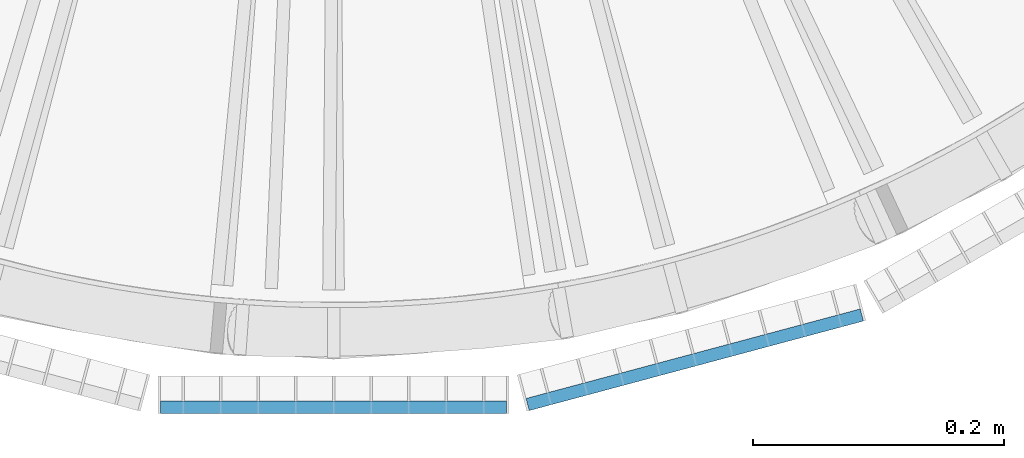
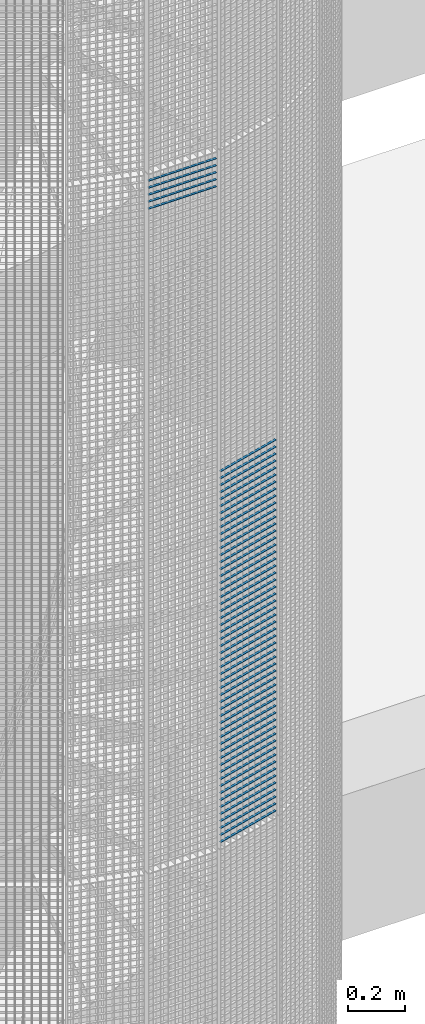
# One storey, part 149 of 1183: 59 beams, 2 elements without a shape of their own.
"""IFC2X3 building model written with IfcOpenShell, lengths in millimetres."""

from ifc_helpers import new_model, si_unit, frame, origin_with_axes, origin_2d_with_axis, place, context, subcontext, project, spatial, rectangle, extrude, material, type_object, element, aggregate, save


model = new_model("IFC2X3")

# Units and contexts
model_context = context("Model", 3, precision=1e-05, world=origin_with_axes())
body_context = subcontext(model_context, "Body", "Model", "MODEL_VIEW")
ifc_project = project(units=[si_unit("LENGTHUNIT", "METRE", prefix="MILLI"), si_unit("AREAUNIT", "SQUARE_METRE"), si_unit("VOLUMEUNIT", "CUBIC_METRE"), si_unit("MASSUNIT", "GRAM", prefix="KILO"), si_unit("TIMEUNIT", "SECOND"), si_unit("PLANEANGLEUNIT", "RADIAN"), si_unit("SOLIDANGLEUNIT", "STERADIAN"), si_unit("THERMODYNAMICTEMPERATUREUNIT", "DEGREE_CELSIUS"), si_unit("LUMINOUSINTENSITYUNIT", "LUMEN")], contexts=[model_context])

# Site, building, storey
site_placement = place(None, origin_with_axes())
site = spatial("IfcSite", under=ifc_project, at=site_placement, Name="Undefined", CompositionType="ELEMENT")
building_placement = place(site_placement, origin_with_axes())
building = spatial("IfcBuilding", under=site, at=building_placement, Name="Undefined", CompositionType="ELEMENT")
storey_placement = place(building_placement, origin_with_axes())
storey = spatial("IfcBuildingStorey", under=building, at=storey_placement, Name="Undefined", CompositionType="ELEMENT", Elevation=0.0)

# Assembly, beams
assembly_1_placement = place(storey_placement, origin_with_axes())
assembly_1 = element("IfcElementAssembly", 1, at=assembly_1_placement, inside=storey, Name="BORDURE", AssemblyPlace="NOTDEFINED", PredefinedType="NOTDEFINED")
ifc_material = material(Name="STEEL/S235JR")
beam_type = type_object("IfcBeamType", Name="PL2*10", PredefinedType="NOTDEFINED")
beam_1_placement = place(assembly_1_placement, frame((154.895926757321, -1111.25508286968, 10620.0), z_axis=(0.258819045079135, -0.965925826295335, 0.0), x_axis=(0.965925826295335, 0.258819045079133, 0.0)))
beam_1 = element("IfcBeam", 2, at=beam_1_placement, type_object=beam_type, material=ifc_material, Name="ENTRETOISE", context=body_context, shape_type="SweptSolid", body=[
    extrude(rectangle(XDim=2.0, YDim=10.0, at=origin_2d_with_axis()), frame((275.999999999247, 9.09494701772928e-13, 1.53210777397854e-14), z_axis=(-1.0, 0.0, 0.0), x_axis=(0.0, -1.0, 0.0)), (0.0, 0.0, 1.0), 276.0),
])
beam_2_placement = place(assembly_1_placement, frame((154.895926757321, -1111.25508286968, 10590.0), z_axis=(0.258819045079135, -0.965925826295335, 0.0), x_axis=(0.965925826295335, 0.258819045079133, 0.0)))
beam_2 = element("IfcBeam", 3, at=beam_2_placement, type_object=beam_type, material=ifc_material, Name="ENTRETOISE", context=body_context, shape_type="SweptSolid", body=[
    extrude(rectangle(XDim=2.0, YDim=10.0, at=origin_2d_with_axis()), frame((275.999999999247, 9.09494701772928e-13, 1.53210777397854e-14), z_axis=(-1.0, 0.0, 0.0), x_axis=(0.0, -1.0, 0.0)), (0.0, 0.0, 1.0), 276.0),
])
beam_3_placement = place(assembly_1_placement, frame((154.895926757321, -1111.25508286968, 10560.0), z_axis=(0.258819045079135, -0.965925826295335, 0.0), x_axis=(0.965925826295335, 0.258819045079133, 0.0)))
beam_3 = element("IfcBeam", 4, at=beam_3_placement, type_object=beam_type, material=ifc_material, Name="ENTRETOISE", context=body_context, shape_type="SweptSolid", body=[
    extrude(rectangle(XDim=2.0, YDim=10.0, at=origin_2d_with_axis()), frame((275.999999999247, 9.09494701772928e-13, 1.53210777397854e-14), z_axis=(-1.0, 0.0, 0.0), x_axis=(0.0, -1.0, 0.0)), (0.0, 0.0, 1.0), 276.0),
])
beam_4_placement = place(assembly_1_placement, frame((154.895926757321, -1111.25508286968, 10530.0), z_axis=(0.258819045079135, -0.965925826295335, 0.0), x_axis=(0.965925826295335, 0.258819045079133, 0.0)))
beam_4 = element("IfcBeam", 5, at=beam_4_placement, type_object=beam_type, material=ifc_material, Name="ENTRETOISE", context=body_context, shape_type="SweptSolid", body=[
    extrude(rectangle(XDim=2.0, YDim=10.0, at=origin_2d_with_axis()), frame((275.999999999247, 9.09494701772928e-13, 1.53210777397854e-14), z_axis=(-1.0, 0.0, 0.0), x_axis=(0.0, -1.0, 0.0)), (0.0, 0.0, 1.0), 276.0),
])
beam_5_placement = place(assembly_1_placement, frame((154.895926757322, -1111.25508286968, 10500.0), z_axis=(0.258819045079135, -0.965925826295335, 0.0), x_axis=(0.965925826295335, 0.258819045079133, 0.0)))
beam_5 = element("IfcBeam", 6, at=beam_5_placement, type_object=beam_type, material=ifc_material, Name="ENTRETOISE", context=body_context, shape_type="SweptSolid", body=[
    extrude(rectangle(XDim=2.0, YDim=10.0, at=origin_2d_with_axis()), frame((275.999999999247, 9.09494701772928e-13, 1.53210777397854e-14), z_axis=(-1.0, 0.0, 0.0), x_axis=(0.0, -1.0, 0.0)), (0.0, 0.0, 1.0), 276.0),
])
beam_6_placement = place(assembly_1_placement, frame((154.895926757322, -1111.25508286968, 10470.0), z_axis=(0.258819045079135, -0.965925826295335, 0.0), x_axis=(0.965925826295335, 0.258819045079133, 0.0)))
beam_6 = element("IfcBeam", 7, at=beam_6_placement, type_object=beam_type, material=ifc_material, Name="ENTRETOISE", context=body_context, shape_type="SweptSolid", body=[
    extrude(rectangle(XDim=2.0, YDim=10.0, at=origin_2d_with_axis()), frame((275.999999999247, 9.09494701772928e-13, 1.53210777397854e-14), z_axis=(-1.0, 0.0, 0.0), x_axis=(0.0, -1.0, 0.0)), (0.0, 0.0, 1.0), 276.0),
])
beam_7_placement = place(assembly_1_placement, frame((154.895926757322, -1111.25508286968, 10440.0), z_axis=(0.258819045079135, -0.965925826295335, 0.0), x_axis=(0.965925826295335, 0.258819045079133, 0.0)))
beam_7 = element("IfcBeam", 8, at=beam_7_placement, type_object=beam_type, material=ifc_material, Name="ENTRETOISE", context=body_context, shape_type="SweptSolid", body=[
    extrude(rectangle(XDim=2.0, YDim=10.0, at=origin_2d_with_axis()), frame((275.999999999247, 9.09494701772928e-13, 1.53210777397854e-14), z_axis=(-1.0, 0.0, 0.0), x_axis=(0.0, -1.0, 0.0)), (0.0, 0.0, 1.0), 276.0),
])
beam_8_placement = place(assembly_1_placement, frame((154.895926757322, -1111.25508286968, 10410.0), z_axis=(0.258819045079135, -0.965925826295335, 0.0), x_axis=(0.965925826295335, 0.258819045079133, 0.0)))
beam_8 = element("IfcBeam", 9, at=beam_8_placement, type_object=beam_type, material=ifc_material, Name="ENTRETOISE", context=body_context, shape_type="SweptSolid", body=[
    extrude(rectangle(XDim=2.0, YDim=10.0, at=origin_2d_with_axis()), frame((275.999999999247, 9.09494701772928e-13, 1.53210777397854e-14), z_axis=(-1.0, 0.0, 0.0), x_axis=(0.0, -1.0, 0.0)), (0.0, 0.0, 1.0), 276.0),
])
beam_9_placement = place(assembly_1_placement, frame((154.895926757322, -1111.25508286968, 10380.0), z_axis=(0.258819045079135, -0.965925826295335, 0.0), x_axis=(0.965925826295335, 0.258819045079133, 0.0)))
beam_9 = element("IfcBeam", 10, at=beam_9_placement, type_object=beam_type, material=ifc_material, Name="ENTRETOISE", context=body_context, shape_type="SweptSolid", body=[
    extrude(rectangle(XDim=2.0, YDim=10.0, at=origin_2d_with_axis()), frame((275.999999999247, 9.09494701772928e-13, 1.53210777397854e-14), z_axis=(-1.0, 0.0, 0.0), x_axis=(0.0, -1.0, 0.0)), (0.0, 0.0, 1.0), 276.0),
])
beam_10_placement = place(assembly_1_placement, frame((154.895926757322, -1111.25508286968, 10350.0), z_axis=(0.258819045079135, -0.965925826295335, 0.0), x_axis=(0.965925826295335, 0.258819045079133, 0.0)))
beam_10 = element("IfcBeam", 11, at=beam_10_placement, type_object=beam_type, material=ifc_material, Name="ENTRETOISE", context=body_context, shape_type="SweptSolid", body=[
    extrude(rectangle(XDim=2.0, YDim=10.0, at=origin_2d_with_axis()), frame((275.999999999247, 9.09494701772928e-13, 1.53210777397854e-14), z_axis=(-1.0, 0.0, 0.0), x_axis=(0.0, -1.0, 0.0)), (0.0, 0.0, 1.0), 276.0),
])
beam_11_placement = place(assembly_1_placement, frame((154.895926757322, -1111.25508286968, 10320.0), z_axis=(0.258819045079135, -0.965925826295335, 0.0), x_axis=(0.965925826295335, 0.258819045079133, 0.0)))
beam_11 = element("IfcBeam", 12, at=beam_11_placement, type_object=beam_type, material=ifc_material, Name="ENTRETOISE", context=body_context, shape_type="SweptSolid", body=[
    extrude(rectangle(XDim=2.0, YDim=10.0, at=origin_2d_with_axis()), frame((275.999999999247, 9.09494701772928e-13, 1.53210777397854e-14), z_axis=(-1.0, 0.0, 0.0), x_axis=(0.0, -1.0, 0.0)), (0.0, 0.0, 1.0), 276.0),
])
beam_12_placement = place(assembly_1_placement, frame((154.895926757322, -1111.25508286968, 10290.0), z_axis=(0.258819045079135, -0.965925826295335, 0.0), x_axis=(0.965925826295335, 0.258819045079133, 0.0)))
beam_12 = element("IfcBeam", 13, at=beam_12_placement, type_object=beam_type, material=ifc_material, Name="ENTRETOISE", context=body_context, shape_type="SweptSolid", body=[
    extrude(rectangle(XDim=2.0, YDim=10.0, at=origin_2d_with_axis()), frame((275.999999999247, 9.09494701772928e-13, 1.53210777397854e-14), z_axis=(-1.0, 0.0, 0.0), x_axis=(0.0, -1.0, 0.0)), (0.0, 0.0, 1.0), 276.0),
])
beam_13_placement = place(assembly_1_placement, frame((154.895926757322, -1111.25508286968, 10260.0), z_axis=(0.258819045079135, -0.965925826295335, 0.0), x_axis=(0.965925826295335, 0.258819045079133, 0.0)))
beam_13 = element("IfcBeam", 14, at=beam_13_placement, type_object=beam_type, material=ifc_material, Name="ENTRETOISE", context=body_context, shape_type="SweptSolid", body=[
    extrude(rectangle(XDim=2.0, YDim=10.0, at=origin_2d_with_axis()), frame((275.999999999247, 9.09494701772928e-13, 1.53210777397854e-14), z_axis=(-1.0, 0.0, 0.0), x_axis=(0.0, -1.0, 0.0)), (0.0, 0.0, 1.0), 276.0),
])
beam_14_placement = place(assembly_1_placement, frame((154.895926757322, -1111.25508286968, 10230.0), z_axis=(0.258819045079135, -0.965925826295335, 0.0), x_axis=(0.965925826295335, 0.258819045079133, 0.0)))
beam_14 = element("IfcBeam", 15, at=beam_14_placement, type_object=beam_type, material=ifc_material, Name="ENTRETOISE", context=body_context, shape_type="SweptSolid", body=[
    extrude(rectangle(XDim=2.0, YDim=10.0, at=origin_2d_with_axis()), frame((275.999999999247, 9.09494701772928e-13, 1.53210777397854e-14), z_axis=(-1.0, 0.0, 0.0), x_axis=(0.0, -1.0, 0.0)), (0.0, 0.0, 1.0), 276.0),
])
beam_15_placement = place(assembly_1_placement, frame((154.895926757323, -1111.25508286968, 10200.0), z_axis=(0.258819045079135, -0.965925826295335, 0.0), x_axis=(0.965925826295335, 0.258819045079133, 0.0)))
beam_15 = element("IfcBeam", 16, at=beam_15_placement, type_object=beam_type, material=ifc_material, Name="ENTRETOISE", context=body_context, shape_type="SweptSolid", body=[
    extrude(rectangle(XDim=2.0, YDim=10.0, at=origin_2d_with_axis()), frame((275.999999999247, 9.09494701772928e-13, 1.53210777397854e-14), z_axis=(-1.0, 0.0, 0.0), x_axis=(0.0, -1.0, 0.0)), (0.0, 0.0, 1.0), 276.0),
])
beam_16_placement = place(assembly_1_placement, frame((154.895926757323, -1111.25508286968, 10170.0), z_axis=(0.258819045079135, -0.965925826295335, 0.0), x_axis=(0.965925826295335, 0.258819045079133, 0.0)))
beam_16 = element("IfcBeam", 17, at=beam_16_placement, type_object=beam_type, material=ifc_material, Name="ENTRETOISE", context=body_context, shape_type="SweptSolid", body=[
    extrude(rectangle(XDim=2.0, YDim=10.0, at=origin_2d_with_axis()), frame((275.999999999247, 9.09494701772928e-13, 1.53210777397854e-14), z_axis=(-1.0, 0.0, 0.0), x_axis=(0.0, -1.0, 0.0)), (0.0, 0.0, 1.0), 276.0),
])
beam_17_placement = place(assembly_1_placement, frame((154.895926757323, -1111.25508286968, 10140.0), z_axis=(0.258819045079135, -0.965925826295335, 0.0), x_axis=(0.965925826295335, 0.258819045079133, 0.0)))
beam_17 = element("IfcBeam", 18, at=beam_17_placement, type_object=beam_type, material=ifc_material, Name="ENTRETOISE", context=body_context, shape_type="SweptSolid", body=[
    extrude(rectangle(XDim=2.0, YDim=10.0, at=origin_2d_with_axis()), frame((275.999999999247, 9.09494701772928e-13, 1.53210777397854e-14), z_axis=(-1.0, 0.0, 0.0), x_axis=(0.0, -1.0, 0.0)), (0.0, 0.0, 1.0), 276.0),
])
beam_18_placement = place(assembly_1_placement, frame((154.895926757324, -1111.25508286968, 9720.0), z_axis=(0.258819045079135, -0.965925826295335, 0.0), x_axis=(0.965925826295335, 0.258819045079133, 0.0)))
beam_18 = element("IfcBeam", 19, at=beam_18_placement, type_object=beam_type, material=ifc_material, Name="ENTRETOISE", context=body_context, shape_type="SweptSolid", body=[
    extrude(rectangle(XDim=2.0, YDim=10.0, at=origin_2d_with_axis()), frame((275.999999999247, 9.09494701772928e-13, 1.53210777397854e-14), z_axis=(-1.0, 0.0, 0.0), x_axis=(0.0, -1.0, 0.0)), (0.0, 0.0, 1.0), 276.0),
])
beam_19_placement = place(assembly_1_placement, frame((154.895926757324, -1111.25508286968, 9690.0), z_axis=(0.258819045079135, -0.965925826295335, 0.0), x_axis=(0.965925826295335, 0.258819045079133, 0.0)))
beam_19 = element("IfcBeam", 20, at=beam_19_placement, type_object=beam_type, material=ifc_material, Name="ENTRETOISE", context=body_context, shape_type="SweptSolid", body=[
    extrude(rectangle(XDim=2.0, YDim=10.0, at=origin_2d_with_axis()), frame((275.999999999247, 9.09494701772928e-13, 1.53210777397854e-14), z_axis=(-1.0, 0.0, 0.0), x_axis=(0.0, -1.0, 0.0)), (0.0, 0.0, 1.0), 276.0),
])
beam_20_placement = place(assembly_1_placement, frame((154.895926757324, -1111.25508286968, 9750.0), z_axis=(0.258819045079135, -0.965925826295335, 0.0), x_axis=(0.965925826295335, 0.258819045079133, 0.0)))
beam_20 = element("IfcBeam", 21, at=beam_20_placement, type_object=beam_type, material=ifc_material, Name="ENTRETOISE", context=body_context, shape_type="SweptSolid", body=[
    extrude(rectangle(XDim=2.0, YDim=10.0, at=origin_2d_with_axis()), frame((275.999999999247, 9.09494701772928e-13, 1.53210777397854e-14), z_axis=(-1.0, 0.0, 0.0), x_axis=(0.0, -1.0, 0.0)), (0.0, 0.0, 1.0), 276.0),
])
beam_21_placement = place(assembly_1_placement, frame((154.895926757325, -1111.25508286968, 9660.0), z_axis=(0.258819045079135, -0.965925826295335, 0.0), x_axis=(0.965925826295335, 0.258819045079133, 0.0)))
beam_21 = element("IfcBeam", 22, at=beam_21_placement, type_object=beam_type, material=ifc_material, Name="ENTRETOISE", context=body_context, shape_type="SweptSolid", body=[
    extrude(rectangle(XDim=2.0, YDim=10.0, at=origin_2d_with_axis()), frame((275.999999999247, 9.09494701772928e-13, 1.53210777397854e-14), z_axis=(-1.0, 0.0, 0.0), x_axis=(0.0, -1.0, 0.0)), (0.0, 0.0, 1.0), 276.0),
])
beam_22_placement = place(assembly_1_placement, frame((154.895926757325, -1111.25508286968, 9630.0), z_axis=(0.258819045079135, -0.965925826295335, 0.0), x_axis=(0.965925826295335, 0.258819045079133, 0.0)))
beam_22 = element("IfcBeam", 23, at=beam_22_placement, type_object=beam_type, material=ifc_material, Name="ENTRETOISE", context=body_context, shape_type="SweptSolid", body=[
    extrude(rectangle(XDim=2.0, YDim=10.0, at=origin_2d_with_axis()), frame((275.999999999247, 9.09494701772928e-13, 1.53210777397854e-14), z_axis=(-1.0, 0.0, 0.0), x_axis=(0.0, -1.0, 0.0)), (0.0, 0.0, 1.0), 276.0),
])
beam_23_placement = place(assembly_1_placement, frame((154.895926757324, -1111.25508286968, 9780.0), z_axis=(0.258819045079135, -0.965925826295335, 0.0), x_axis=(0.965925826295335, 0.258819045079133, 0.0)))
beam_23 = element("IfcBeam", 24, at=beam_23_placement, type_object=beam_type, material=ifc_material, Name="ENTRETOISE", context=body_context, shape_type="SweptSolid", body=[
    extrude(rectangle(XDim=2.0, YDim=10.0, at=origin_2d_with_axis()), frame((275.999999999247, 9.09494701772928e-13, 1.53210777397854e-14), z_axis=(-1.0, 0.0, 0.0), x_axis=(0.0, -1.0, 0.0)), (0.0, 0.0, 1.0), 276.0),
])
beam_24_placement = place(assembly_1_placement, frame((154.895926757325, -1111.25508286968, 9600.0), z_axis=(0.258819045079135, -0.965925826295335, 0.0), x_axis=(0.965925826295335, 0.258819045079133, 0.0)))
beam_24 = element("IfcBeam", 25, at=beam_24_placement, type_object=beam_type, material=ifc_material, Name="ENTRETOISE", context=body_context, shape_type="SweptSolid", body=[
    extrude(rectangle(XDim=2.0, YDim=10.0, at=origin_2d_with_axis()), frame((275.999999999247, 9.09494701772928e-13, 1.53210777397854e-14), z_axis=(-1.0, 0.0, 0.0), x_axis=(0.0, -1.0, 0.0)), (0.0, 0.0, 1.0), 276.0),
])
beam_25_placement = place(assembly_1_placement, frame((154.895926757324, -1111.25508286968, 9810.0), z_axis=(0.258819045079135, -0.965925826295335, 0.0), x_axis=(0.965925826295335, 0.258819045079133, 0.0)))
beam_25 = element("IfcBeam", 26, at=beam_25_placement, type_object=beam_type, material=ifc_material, Name="ENTRETOISE", context=body_context, shape_type="SweptSolid", body=[
    extrude(rectangle(XDim=2.0, YDim=10.0, at=origin_2d_with_axis()), frame((275.999999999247, 9.09494701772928e-13, 1.53210777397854e-14), z_axis=(-1.0, 0.0, 0.0), x_axis=(0.0, -1.0, 0.0)), (0.0, 0.0, 1.0), 276.0),
])
beam_26_placement = place(assembly_1_placement, frame((154.895926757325, -1111.25508286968, 9570.0), z_axis=(0.258819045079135, -0.965925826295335, 0.0), x_axis=(0.965925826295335, 0.258819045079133, 0.0)))
beam_26 = element("IfcBeam", 27, at=beam_26_placement, type_object=beam_type, material=ifc_material, Name="ENTRETOISE", context=body_context, shape_type="SweptSolid", body=[
    extrude(rectangle(XDim=2.0, YDim=10.0, at=origin_2d_with_axis()), frame((275.999999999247, 9.09494701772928e-13, 1.53210777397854e-14), z_axis=(-1.0, 0.0, 0.0), x_axis=(0.0, -1.0, 0.0)), (0.0, 0.0, 1.0), 276.0),
])
beam_27_placement = place(assembly_1_placement, frame((154.895926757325, -1111.25508286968, 9540.0), z_axis=(0.258819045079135, -0.965925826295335, 0.0), x_axis=(0.965925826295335, 0.258819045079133, 0.0)))
beam_27 = element("IfcBeam", 28, at=beam_27_placement, type_object=beam_type, material=ifc_material, Name="ENTRETOISE", context=body_context, shape_type="SweptSolid", body=[
    extrude(rectangle(XDim=2.0, YDim=10.0, at=origin_2d_with_axis()), frame((275.999999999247, 9.09494701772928e-13, 1.53210777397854e-14), z_axis=(-1.0, 0.0, 0.0), x_axis=(0.0, -1.0, 0.0)), (0.0, 0.0, 1.0), 276.0),
])
beam_28_placement = place(assembly_1_placement, frame((154.895926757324, -1111.25508286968, 9840.0), z_axis=(0.258819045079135, -0.965925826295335, 0.0), x_axis=(0.965925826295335, 0.258819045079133, 0.0)))
beam_28 = element("IfcBeam", 29, at=beam_28_placement, type_object=beam_type, material=ifc_material, Name="ENTRETOISE", context=body_context, shape_type="SweptSolid", body=[
    extrude(rectangle(XDim=2.0, YDim=10.0, at=origin_2d_with_axis()), frame((275.999999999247, 9.09494701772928e-13, 1.53210777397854e-14), z_axis=(-1.0, 0.0, 0.0), x_axis=(0.0, -1.0, 0.0)), (0.0, 0.0, 1.0), 276.0),
])
beam_29_placement = place(assembly_1_placement, frame((154.895926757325, -1111.25508286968, 9510.0), z_axis=(0.258819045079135, -0.965925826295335, 0.0), x_axis=(0.965925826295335, 0.258819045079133, 0.0)))
beam_29 = element("IfcBeam", 30, at=beam_29_placement, type_object=beam_type, material=ifc_material, Name="ENTRETOISE", context=body_context, shape_type="SweptSolid", body=[
    extrude(rectangle(XDim=2.0, YDim=10.0, at=origin_2d_with_axis()), frame((275.999999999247, 9.09494701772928e-13, 1.53210777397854e-14), z_axis=(-1.0, 0.0, 0.0), x_axis=(0.0, -1.0, 0.0)), (0.0, 0.0, 1.0), 276.0),
])
beam_30_placement = place(assembly_1_placement, frame((154.895926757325, -1111.25508286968, 9480.0), z_axis=(0.258819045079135, -0.965925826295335, 0.0), x_axis=(0.965925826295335, 0.258819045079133, 0.0)))
beam_30 = element("IfcBeam", 31, at=beam_30_placement, type_object=beam_type, material=ifc_material, Name="ENTRETOISE", context=body_context, shape_type="SweptSolid", body=[
    extrude(rectangle(XDim=2.0, YDim=10.0, at=origin_2d_with_axis()), frame((275.999999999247, 9.09494701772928e-13, 1.53210777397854e-14), z_axis=(-1.0, 0.0, 0.0), x_axis=(0.0, -1.0, 0.0)), (0.0, 0.0, 1.0), 276.0),
])
beam_31_placement = place(assembly_1_placement, frame((154.895926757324, -1111.25508286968, 9870.0), z_axis=(0.258819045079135, -0.965925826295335, 0.0), x_axis=(0.965925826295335, 0.258819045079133, 0.0)))
beam_31 = element("IfcBeam", 32, at=beam_31_placement, type_object=beam_type, material=ifc_material, Name="ENTRETOISE", context=body_context, shape_type="SweptSolid", body=[
    extrude(rectangle(XDim=2.0, YDim=10.0, at=origin_2d_with_axis()), frame((275.999999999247, 9.09494701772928e-13, 1.53210777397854e-14), z_axis=(-1.0, 0.0, 0.0), x_axis=(0.0, -1.0, 0.0)), (0.0, 0.0, 1.0), 276.0),
])
beam_32_placement = place(assembly_1_placement, frame((154.895926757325, -1111.25508286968, 9450.0), z_axis=(0.258819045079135, -0.965925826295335, 0.0), x_axis=(0.965925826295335, 0.258819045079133, 0.0)))
beam_32 = element("IfcBeam", 33, at=beam_32_placement, type_object=beam_type, material=ifc_material, Name="ENTRETOISE", context=body_context, shape_type="SweptSolid", body=[
    extrude(rectangle(XDim=2.0, YDim=10.0, at=origin_2d_with_axis()), frame((275.999999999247, 9.09494701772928e-13, 1.53210777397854e-14), z_axis=(-1.0, 0.0, 0.0), x_axis=(0.0, -1.0, 0.0)), (0.0, 0.0, 1.0), 276.0),
])
beam_33_placement = place(assembly_1_placement, frame((154.895926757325, -1111.25508286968, 9420.0), z_axis=(0.258819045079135, -0.965925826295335, 0.0), x_axis=(0.965925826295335, 0.258819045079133, 0.0)))
beam_33 = element("IfcBeam", 34, at=beam_33_placement, type_object=beam_type, material=ifc_material, Name="ENTRETOISE", context=body_context, shape_type="SweptSolid", body=[
    extrude(rectangle(XDim=2.0, YDim=10.0, at=origin_2d_with_axis()), frame((275.999999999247, 9.09494701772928e-13, 1.53210777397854e-14), z_axis=(-1.0, 0.0, 0.0), x_axis=(0.0, -1.0, 0.0)), (0.0, 0.0, 1.0), 276.0),
])
beam_34_placement = place(assembly_1_placement, frame((154.895926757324, -1111.25508286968, 9900.0), z_axis=(0.258819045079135, -0.965925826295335, 0.0), x_axis=(0.965925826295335, 0.258819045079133, 0.0)))
beam_34 = element("IfcBeam", 35, at=beam_34_placement, type_object=beam_type, material=ifc_material, Name="ENTRETOISE", context=body_context, shape_type="SweptSolid", body=[
    extrude(rectangle(XDim=2.0, YDim=10.0, at=origin_2d_with_axis()), frame((275.999999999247, 9.09494701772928e-13, 1.53210777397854e-14), z_axis=(-1.0, 0.0, 0.0), x_axis=(0.0, -1.0, 0.0)), (0.0, 0.0, 1.0), 276.0),
])
beam_35_placement = place(assembly_1_placement, frame((154.895926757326, -1111.25508286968, 9390.0), z_axis=(0.258819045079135, -0.965925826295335, 0.0), x_axis=(0.965925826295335, 0.258819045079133, 0.0)))
beam_35 = element("IfcBeam", 36, at=beam_35_placement, type_object=beam_type, material=ifc_material, Name="ENTRETOISE", context=body_context, shape_type="SweptSolid", body=[
    extrude(rectangle(XDim=2.0, YDim=10.0, at=origin_2d_with_axis()), frame((275.999999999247, 9.09494701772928e-13, 1.53210777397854e-14), z_axis=(-1.0, 0.0, 0.0), x_axis=(0.0, -1.0, 0.0)), (0.0, 0.0, 1.0), 276.0),
])
beam_36_placement = place(assembly_1_placement, frame((154.895926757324, -1111.25508286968, 9930.0), z_axis=(0.258819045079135, -0.965925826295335, 0.0), x_axis=(0.965925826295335, 0.258819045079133, 0.0)))
beam_36 = element("IfcBeam", 37, at=beam_36_placement, type_object=beam_type, material=ifc_material, Name="ENTRETOISE", context=body_context, shape_type="SweptSolid", body=[
    extrude(rectangle(XDim=2.0, YDim=10.0, at=origin_2d_with_axis()), frame((275.999999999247, 9.09494701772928e-13, 1.53210777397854e-14), z_axis=(-1.0, 0.0, 0.0), x_axis=(0.0, -1.0, 0.0)), (0.0, 0.0, 1.0), 276.0),
])
beam_37_placement = place(assembly_1_placement, frame((154.895926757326, -1111.25508286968, 9360.0), z_axis=(0.258819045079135, -0.965925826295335, 0.0), x_axis=(0.965925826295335, 0.258819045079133, 0.0)))
beam_37 = element("IfcBeam", 38, at=beam_37_placement, type_object=beam_type, material=ifc_material, Name="ENTRETOISE", context=body_context, shape_type="SweptSolid", body=[
    extrude(rectangle(XDim=2.0, YDim=10.0, at=origin_2d_with_axis()), frame((275.999999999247, 9.09494701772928e-13, 1.53210777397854e-14), z_axis=(-1.0, 0.0, 0.0), x_axis=(0.0, -1.0, 0.0)), (0.0, 0.0, 1.0), 276.0),
])
beam_38_placement = place(assembly_1_placement, frame((154.895926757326, -1111.25508286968, 9330.0), z_axis=(0.258819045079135, -0.965925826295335, 0.0), x_axis=(0.965925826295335, 0.258819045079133, 0.0)))
beam_38 = element("IfcBeam", 39, at=beam_38_placement, type_object=beam_type, material=ifc_material, Name="ENTRETOISE", context=body_context, shape_type="SweptSolid", body=[
    extrude(rectangle(XDim=2.0, YDim=10.0, at=origin_2d_with_axis()), frame((275.999999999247, 9.09494701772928e-13, 1.53210777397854e-14), z_axis=(-1.0, 0.0, 0.0), x_axis=(0.0, -1.0, 0.0)), (0.0, 0.0, 1.0), 276.0),
])
beam_39_placement = place(assembly_1_placement, frame((154.895926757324, -1111.25508286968, 9960.0), z_axis=(0.258819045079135, -0.965925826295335, 0.0), x_axis=(0.965925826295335, 0.258819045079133, 0.0)))
beam_39 = element("IfcBeam", 40, at=beam_39_placement, type_object=beam_type, material=ifc_material, Name="ENTRETOISE", context=body_context, shape_type="SweptSolid", body=[
    extrude(rectangle(XDim=2.0, YDim=10.0, at=origin_2d_with_axis()), frame((275.999999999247, 9.09494701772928e-13, 1.53210777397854e-14), z_axis=(-1.0, 0.0, 0.0), x_axis=(0.0, -1.0, 0.0)), (0.0, 0.0, 1.0), 276.0),
])
beam_40_placement = place(assembly_1_placement, frame((154.895926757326, -1111.25508286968, 9300.0), z_axis=(0.258819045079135, -0.965925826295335, 0.0), x_axis=(0.965925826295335, 0.258819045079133, 0.0)))
beam_40 = element("IfcBeam", 41, at=beam_40_placement, type_object=beam_type, material=ifc_material, Name="ENTRETOISE", context=body_context, shape_type="SweptSolid", body=[
    extrude(rectangle(XDim=2.0, YDim=10.0, at=origin_2d_with_axis()), frame((275.999999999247, 9.09494701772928e-13, 1.53210777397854e-14), z_axis=(-1.0, 0.0, 0.0), x_axis=(0.0, -1.0, 0.0)), (0.0, 0.0, 1.0), 276.0),
])
beam_41_placement = place(assembly_1_placement, frame((154.895926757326, -1111.25508286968, 9270.0), z_axis=(0.258819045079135, -0.965925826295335, 0.0), x_axis=(0.965925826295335, 0.258819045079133, 0.0)))
beam_41 = element("IfcBeam", 42, at=beam_41_placement, type_object=beam_type, material=ifc_material, Name="ENTRETOISE", context=body_context, shape_type="SweptSolid", body=[
    extrude(rectangle(XDim=2.0, YDim=10.0, at=origin_2d_with_axis()), frame((275.999999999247, 9.09494701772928e-13, 1.53210777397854e-14), z_axis=(-1.0, 0.0, 0.0), x_axis=(0.0, -1.0, 0.0)), (0.0, 0.0, 1.0), 276.0),
])
beam_42_placement = place(assembly_1_placement, frame((154.895926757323, -1111.25508286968, 9990.0), z_axis=(0.258819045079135, -0.965925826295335, 0.0), x_axis=(0.965925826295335, 0.258819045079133, 0.0)))
beam_42 = element("IfcBeam", 43, at=beam_42_placement, type_object=beam_type, material=ifc_material, Name="ENTRETOISE", context=body_context, shape_type="SweptSolid", body=[
    extrude(rectangle(XDim=2.0, YDim=10.0, at=origin_2d_with_axis()), frame((275.999999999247, 9.09494701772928e-13, 1.53210777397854e-14), z_axis=(-1.0, 0.0, 0.0), x_axis=(0.0, -1.0, 0.0)), (0.0, 0.0, 1.0), 276.0),
])
beam_43_placement = place(assembly_1_placement, frame((154.895926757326, -1111.25508286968, 9240.0), z_axis=(0.258819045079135, -0.965925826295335, 0.0), x_axis=(0.965925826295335, 0.258819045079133, 0.0)))
beam_43 = element("IfcBeam", 44, at=beam_43_placement, type_object=beam_type, material=ifc_material, Name="ENTRETOISE", context=body_context, shape_type="SweptSolid", body=[
    extrude(rectangle(XDim=2.0, YDim=10.0, at=origin_2d_with_axis()), frame((275.999999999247, 9.09494701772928e-13, 1.53210777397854e-14), z_axis=(-1.0, 0.0, 0.0), x_axis=(0.0, -1.0, 0.0)), (0.0, 0.0, 1.0), 276.0),
])
beam_44_placement = place(assembly_1_placement, frame((154.895926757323, -1111.25508286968, 10020.0), z_axis=(0.258819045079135, -0.965925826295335, 0.0), x_axis=(0.965925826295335, 0.258819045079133, 0.0)))
beam_44 = element("IfcBeam", 45, at=beam_44_placement, type_object=beam_type, material=ifc_material, Name="ENTRETOISE", context=body_context, shape_type="SweptSolid", body=[
    extrude(rectangle(XDim=2.0, YDim=10.0, at=origin_2d_with_axis()), frame((275.999999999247, 9.09494701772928e-13, 1.53210777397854e-14), z_axis=(-1.0, 0.0, 0.0), x_axis=(0.0, -1.0, 0.0)), (0.0, 0.0, 1.0), 276.0),
])
beam_45_placement = place(assembly_1_placement, frame((154.895926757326, -1111.25508286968, 9210.0), z_axis=(0.258819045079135, -0.965925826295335, 0.0), x_axis=(0.965925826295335, 0.258819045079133, 0.0)))
beam_45 = element("IfcBeam", 46, at=beam_45_placement, type_object=beam_type, material=ifc_material, Name="ENTRETOISE", context=body_context, shape_type="SweptSolid", body=[
    extrude(rectangle(XDim=2.0, YDim=10.0, at=origin_2d_with_axis()), frame((275.999999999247, 9.09494701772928e-13, 1.53210777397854e-14), z_axis=(-1.0, 0.0, 0.0), x_axis=(0.0, -1.0, 0.0)), (0.0, 0.0, 1.0), 276.0),
])
beam_46_placement = place(assembly_1_placement, frame((154.895926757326, -1111.25508286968, 9180.0), z_axis=(0.258819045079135, -0.965925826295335, 0.0), x_axis=(0.965925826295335, 0.258819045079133, 0.0)))
beam_46 = element("IfcBeam", 47, at=beam_46_placement, type_object=beam_type, material=ifc_material, Name="ENTRETOISE", context=body_context, shape_type="SweptSolid", body=[
    extrude(rectangle(XDim=2.0, YDim=10.0, at=origin_2d_with_axis()), frame((275.999999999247, 9.09494701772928e-13, 1.53210777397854e-14), z_axis=(-1.0, 0.0, 0.0), x_axis=(0.0, -1.0, 0.0)), (0.0, 0.0, 1.0), 276.0),
])
beam_47_placement = place(assembly_1_placement, frame((154.895926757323, -1111.25508286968, 10050.0), z_axis=(0.258819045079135, -0.965925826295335, 0.0), x_axis=(0.965925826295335, 0.258819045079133, 0.0)))
beam_47 = element("IfcBeam", 48, at=beam_47_placement, type_object=beam_type, material=ifc_material, Name="ENTRETOISE", context=body_context, shape_type="SweptSolid", body=[
    extrude(rectangle(XDim=2.0, YDim=10.0, at=origin_2d_with_axis()), frame((275.999999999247, 9.09494701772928e-13, 1.53210777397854e-14), z_axis=(-1.0, 0.0, 0.0), x_axis=(0.0, -1.0, 0.0)), (0.0, 0.0, 1.0), 276.0),
])
beam_48_placement = place(assembly_1_placement, frame((154.895926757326, -1111.25508286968, 9150.0), z_axis=(0.258819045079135, -0.965925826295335, 0.0), x_axis=(0.965925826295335, 0.258819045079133, 0.0)))
beam_48 = element("IfcBeam", 49, at=beam_48_placement, type_object=beam_type, material=ifc_material, Name="ENTRETOISE", context=body_context, shape_type="SweptSolid", body=[
    extrude(rectangle(XDim=2.0, YDim=10.0, at=origin_2d_with_axis()), frame((275.999999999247, 9.09494701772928e-13, 1.53210777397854e-14), z_axis=(-1.0, 0.0, 0.0), x_axis=(0.0, -1.0, 0.0)), (0.0, 0.0, 1.0), 276.0),
])
beam_49_placement = place(assembly_1_placement, frame((154.895926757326, -1111.25508286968, 9120.0), z_axis=(0.258819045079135, -0.965925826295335, 0.0), x_axis=(0.965925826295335, 0.258819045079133, 0.0)))
beam_49 = element("IfcBeam", 50, at=beam_49_placement, type_object=beam_type, material=ifc_material, Name="ENTRETOISE", context=body_context, shape_type="SweptSolid", body=[
    extrude(rectangle(XDim=2.0, YDim=10.0, at=origin_2d_with_axis()), frame((275.999999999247, 9.09494701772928e-13, 1.53210777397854e-14), z_axis=(-1.0, 0.0, 0.0), x_axis=(0.0, -1.0, 0.0)), (0.0, 0.0, 1.0), 276.0),
])
beam_50_placement = place(assembly_1_placement, frame((154.895926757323, -1111.25508286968, 10080.0), z_axis=(0.258819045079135, -0.965925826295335, 0.0), x_axis=(0.965925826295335, 0.258819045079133, 0.0)))
beam_50 = element("IfcBeam", 51, at=beam_50_placement, type_object=beam_type, material=ifc_material, Name="ENTRETOISE", context=body_context, shape_type="SweptSolid", body=[
    extrude(rectangle(XDim=2.0, YDim=10.0, at=origin_2d_with_axis()), frame((275.999999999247, 9.09494701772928e-13, 1.53210777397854e-14), z_axis=(-1.0, 0.0, 0.0), x_axis=(0.0, -1.0, 0.0)), (0.0, 0.0, 1.0), 276.0),
])
beam_51_placement = place(assembly_1_placement, frame((154.895926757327, -1111.25508286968, 9090.0), z_axis=(0.258819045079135, -0.965925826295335, 0.0), x_axis=(0.965925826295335, 0.258819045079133, 0.0)))
beam_51 = element("IfcBeam", 52, at=beam_51_placement, type_object=beam_type, material=ifc_material, Name="ENTRETOISE", context=body_context, shape_type="SweptSolid", body=[
    extrude(rectangle(XDim=2.0, YDim=10.0, at=origin_2d_with_axis()), frame((275.999999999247, 9.09494701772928e-13, 1.53210777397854e-14), z_axis=(-1.0, 0.0, 0.0), x_axis=(0.0, -1.0, 0.0)), (0.0, 0.0, 1.0), 276.0),
])
beam_52_placement = place(assembly_1_placement, frame((154.895926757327, -1111.25508286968, 9060.0), z_axis=(0.258819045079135, -0.965925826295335, 0.0), x_axis=(0.965925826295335, 0.258819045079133, 0.0)))
beam_52 = element("IfcBeam", 53, at=beam_52_placement, type_object=beam_type, material=ifc_material, Name="ENTRETOISE", context=body_context, shape_type="SweptSolid", body=[
    extrude(rectangle(XDim=2.0, YDim=10.0, at=origin_2d_with_axis()), frame((275.999999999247, 9.09494701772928e-13, 1.53210777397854e-14), z_axis=(-1.0, 0.0, 0.0), x_axis=(0.0, -1.0, 0.0)), (0.0, 0.0, 1.0), 276.0),
])
beam_53_placement = place(assembly_1_placement, frame((154.895926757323, -1111.25508286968, 10110.0), z_axis=(0.258819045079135, -0.965925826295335, 0.0), x_axis=(0.965925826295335, 0.258819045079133, 0.0)))
beam_53 = element("IfcBeam", 54, at=beam_53_placement, type_object=beam_type, material=ifc_material, Name="ENTRETOISE", context=body_context, shape_type="SweptSolid", body=[
    extrude(rectangle(XDim=2.0, YDim=10.0, at=origin_2d_with_axis()), frame((275.999999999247, 9.09494701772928e-13, 1.53210777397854e-14), z_axis=(-1.0, 0.0, 0.0), x_axis=(0.0, -1.0, 0.0)), (0.0, 0.0, 1.0), 276.0),
])
beam_54_placement = place(assembly_1_placement, frame((154.895926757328, -1111.25508286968, 9030.0), z_axis=(0.258819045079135, -0.965925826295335, 0.0), x_axis=(0.965925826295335, 0.258819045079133, 0.0)))
beam_54 = element("IfcBeam", 55, at=beam_54_placement, type_object=beam_type, material=ifc_material, Name="ENTRETOISE", context=body_context, shape_type="SweptSolid", body=[
    extrude(rectangle(XDim=2.0, YDim=10.0, at=origin_2d_with_axis()), frame((275.999999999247, 9.09494701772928e-13, 1.53210777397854e-14), z_axis=(-1.0, 0.0, 0.0), x_axis=(0.0, -1.0, 0.0)), (0.0, 0.0, 1.0), 276.0),
])
aggregate(assembly_1, [beam_1, beam_2, beam_3, beam_4, beam_5, beam_6, beam_7, beam_8, beam_9, beam_10, beam_11, beam_12, beam_13, beam_14, beam_15, beam_16, beam_17, beam_18, beam_19, beam_20, beam_21, beam_22, beam_23, beam_24, beam_25, beam_26, beam_27, beam_28, beam_29, beam_30, beam_31, beam_32, beam_33, beam_34, beam_35, beam_36, beam_37, beam_38, beam_39, beam_40, beam_41, beam_42, beam_43, beam_44, beam_45, beam_46, beam_47, beam_48, beam_49, beam_50, beam_51, beam_52, beam_53, beam_54])

assembly_2_placement = place(storey_placement, origin_with_axes())
assembly_2 = element("IfcElementAssembly", 56, at=assembly_2_placement, inside=storey, Name="BORDURE", AssemblyPlace="NOTDEFINED", PredefinedType="NOTDEFINED")
beam_55_placement = place(assembly_2_placement, frame((-137.996003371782, -1113.47999999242, 11970.0), z_axis=(0.0, -1.0, 0.0), x_axis=(1.0, 0.0, 0.0)))
beam_55 = element("IfcBeam", 57, at=beam_55_placement, type_object=beam_type, material=ifc_material, Name="ENTRETOISE", context=body_context, shape_type="SweptSolid", body=[
    extrude(rectangle(XDim=2.0, YDim=10.0, at=origin_2d_with_axis()), frame((275.999999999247, 9.09494701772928e-13, 1.53210777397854e-14), z_axis=(-1.0, 0.0, 0.0), x_axis=(0.0, -1.0, 0.0)), (0.0, 0.0, 1.0), 276.0),
])
beam_56_placement = place(assembly_2_placement, frame((-137.996003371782, -1113.47999999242, 11940.0), z_axis=(0.0, -1.0, 0.0), x_axis=(1.0, 0.0, 0.0)))
beam_56 = element("IfcBeam", 58, at=beam_56_placement, type_object=beam_type, material=ifc_material, Name="ENTRETOISE", context=body_context, shape_type="SweptSolid", body=[
    extrude(rectangle(XDim=2.0, YDim=10.0, at=origin_2d_with_axis()), frame((275.999999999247, 9.09494701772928e-13, 1.53210777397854e-14), z_axis=(-1.0, 0.0, 0.0), x_axis=(0.0, -1.0, 0.0)), (0.0, 0.0, 1.0), 276.0),
])
beam_57_placement = place(assembly_2_placement, frame((-137.996003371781, -1113.47999999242, 11910.0), z_axis=(0.0, -1.0, 0.0), x_axis=(1.0, 0.0, 0.0)))
beam_57 = element("IfcBeam", 59, at=beam_57_placement, type_object=beam_type, material=ifc_material, Name="ENTRETOISE", context=body_context, shape_type="SweptSolid", body=[
    extrude(rectangle(XDim=2.0, YDim=10.0, at=origin_2d_with_axis()), frame((275.999999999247, 9.09494701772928e-13, 1.53210777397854e-14), z_axis=(-1.0, 0.0, 0.0), x_axis=(0.0, -1.0, 0.0)), (0.0, 0.0, 1.0), 276.0),
])
beam_58_placement = place(assembly_2_placement, frame((-137.996003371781, -1113.47999999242, 11880.0), z_axis=(0.0, -1.0, 0.0), x_axis=(1.0, 0.0, 0.0)))
beam_58 = element("IfcBeam", 60, at=beam_58_placement, type_object=beam_type, material=ifc_material, Name="ENTRETOISE", context=body_context, shape_type="SweptSolid", body=[
    extrude(rectangle(XDim=2.0, YDim=10.0, at=origin_2d_with_axis()), frame((275.999999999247, 9.09494701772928e-13, 1.53210777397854e-14), z_axis=(-1.0, 0.0, 0.0), x_axis=(0.0, -1.0, 0.0)), (0.0, 0.0, 1.0), 276.0),
])
beam_59_placement = place(assembly_2_placement, frame((-137.996003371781, -1113.47999999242, 11850.0), z_axis=(0.0, -1.0, 0.0), x_axis=(1.0, 0.0, 0.0)))
beam_59 = element("IfcBeam", 61, at=beam_59_placement, type_object=beam_type, material=ifc_material, Name="ENTRETOISE", context=body_context, shape_type="SweptSolid", body=[
    extrude(rectangle(XDim=2.0, YDim=10.0, at=origin_2d_with_axis()), frame((275.999999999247, 9.09494701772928e-13, 1.53210777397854e-14), z_axis=(-1.0, 0.0, 0.0), x_axis=(0.0, -1.0, 0.0)), (0.0, 0.0, 1.0), 276.0),
])
aggregate(assembly_2, [beam_55, beam_56, beam_57, beam_58, beam_59])

save(model, "model.ifc")
